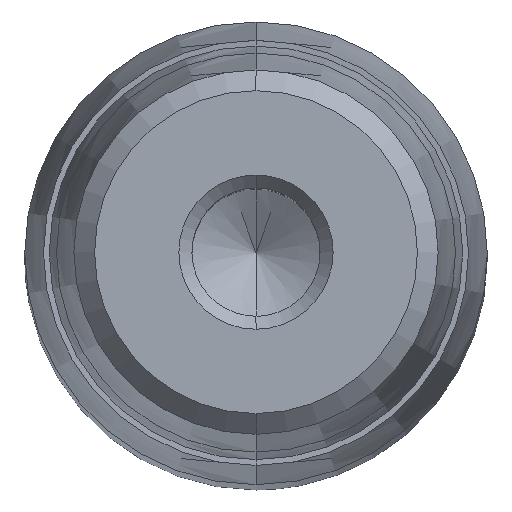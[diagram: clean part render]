
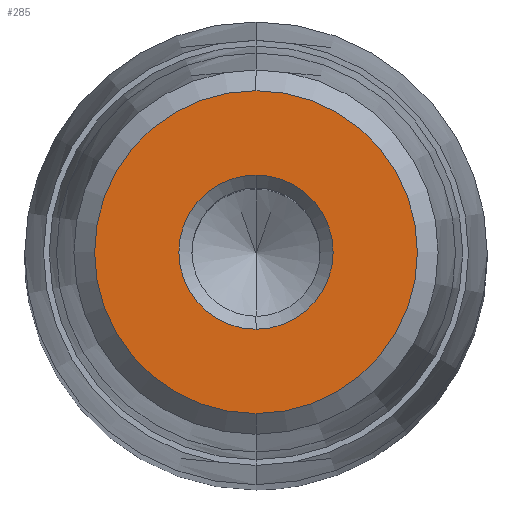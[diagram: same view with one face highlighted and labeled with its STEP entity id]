
A CAD part, top view. The second image highlights one B-rep face of the part: STEP entity #285.
In plain terms, the highlighted planar face has unit normal (0, 0, 1).
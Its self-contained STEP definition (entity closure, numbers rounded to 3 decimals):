
#164=CARTESIAN_POINT('Axis2P3D Location',(0.,0.,35.)) ;
#168=CARTESIAN_POINT('Vertex',(4.,0.,35.)) ;
#170=CARTESIAN_POINT('Vertex',(0.,-4.,35.)) ;
#173=CARTESIAN_POINT('Axis2P3D Location',(0.,0.,35.)) ;
#177=CARTESIAN_POINT('Vertex',(0.,4.,35.)) ;
#228=CARTESIAN_POINT('Axis2P3D Location',(0.,4.,35.)) ;
#233=CARTESIAN_POINT('Axis2P3D Location',(0.,0.,35.)) ;
#237=CARTESIAN_POINT('Vertex',(0.,8.375,35.)) ;
#239=CARTESIAN_POINT('Vertex',(8.375,0.,35.)) ;
#242=CARTESIAN_POINT('Axis2P3D Location',(0.,0.,35.)) ;
#246=CARTESIAN_POINT('Vertex',(-8.375,0.,35.)) ;
#249=CARTESIAN_POINT('Axis2P3D Location',(0.,0.,35.)) ;
#253=CARTESIAN_POINT('Vertex',(0.,-8.375,35.)) ;
#256=CARTESIAN_POINT('Axis2P3D Location',(0.,0.,35.)) ;
#267=CARTESIAN_POINT('Axis2P3D Location',(0.,0.,35.)) ;
#271=CARTESIAN_POINT('Vertex',(-4.,0.,35.)) ;
#274=CARTESIAN_POINT('Axis2P3D Location',(0.,0.,35.)) ;
#165=DIRECTION('Axis2P3D Direction',(-0.,0.,1.)) ;
#174=DIRECTION('Axis2P3D Direction',(-0.,0.,1.)) ;
#229=DIRECTION('Axis2P3D Direction',(0.,0.,-1.)) ;
#230=DIRECTION('Axis2P3D XDirection',(0.,1.,0.)) ;
#234=DIRECTION('Axis2P3D Direction',(0.,0.,-1.)) ;
#243=DIRECTION('Axis2P3D Direction',(0.,0.,-1.)) ;
#250=DIRECTION('Axis2P3D Direction',(0.,0.,-1.)) ;
#257=DIRECTION('Axis2P3D Direction',(0.,0.,-1.)) ;
#268=DIRECTION('Axis2P3D Direction',(0.,0.,-1.)) ;
#275=DIRECTION('Axis2P3D Direction',(0.,0.,-1.)) ;
#166=AXIS2_PLACEMENT_3D('Circle Axis2P3D',#164,#165,$) ;
#175=AXIS2_PLACEMENT_3D('Circle Axis2P3D',#173,#174,$) ;
#231=AXIS2_PLACEMENT_3D('Plane Axis2P3D',#228,#229,#230) ;
#235=AXIS2_PLACEMENT_3D('Circle Axis2P3D',#233,#234,$) ;
#244=AXIS2_PLACEMENT_3D('Circle Axis2P3D',#242,#243,$) ;
#251=AXIS2_PLACEMENT_3D('Circle Axis2P3D',#249,#250,$) ;
#258=AXIS2_PLACEMENT_3D('Circle Axis2P3D',#256,#257,$) ;
#269=AXIS2_PLACEMENT_3D('Circle Axis2P3D',#267,#268,$) ;
#276=AXIS2_PLACEMENT_3D('Circle Axis2P3D',#274,#275,$) ;
#262=ORIENTED_EDGE('',*,*,#241,.F.) ;
#263=ORIENTED_EDGE('',*,*,#248,.F.) ;
#264=ORIENTED_EDGE('',*,*,#255,.F.) ;
#265=ORIENTED_EDGE('',*,*,#260,.F.) ;
#280=ORIENTED_EDGE('',*,*,#172,.T.) ;
#281=ORIENTED_EDGE('',*,*,#273,.T.) ;
#282=ORIENTED_EDGE('',*,*,#278,.T.) ;
#283=ORIENTED_EDGE('',*,*,#179,.T.) ;
#284=FACE_BOUND('',#279,.T.) ;
#285=ADVANCED_FACE('722-24x180x203',(#266,#284),#232,.F.) ;
#167=CIRCLE('generated circle',#166,4.) ;
#176=CIRCLE('generated circle',#175,4.) ;
#236=CIRCLE('generated circle',#235,8.375) ;
#245=CIRCLE('generated circle',#244,8.375) ;
#252=CIRCLE('generated circle',#251,8.375) ;
#259=CIRCLE('generated circle',#258,8.375) ;
#270=CIRCLE('generated circle',#269,4.) ;
#277=CIRCLE('generated circle',#276,4.) ;
#172=EDGE_CURVE('',#169,#171,#167,.F.) ;
#179=EDGE_CURVE('',#178,#169,#176,.F.) ;
#241=EDGE_CURVE('',#238,#240,#236,.T.) ;
#248=EDGE_CURVE('',#247,#238,#245,.T.) ;
#255=EDGE_CURVE('',#254,#247,#252,.T.) ;
#260=EDGE_CURVE('',#240,#254,#259,.T.) ;
#273=EDGE_CURVE('',#171,#272,#270,.T.) ;
#278=EDGE_CURVE('',#272,#178,#277,.T.) ;
#261=EDGE_LOOP('',(#262,#263,#264,#265)) ;
#279=EDGE_LOOP('',(#280,#281,#282,#283)) ;
#266=FACE_OUTER_BOUND('',#261,.T.) ;
#232=PLANE('Plane',#231) ;
#169=VERTEX_POINT('',#168) ;
#171=VERTEX_POINT('',#170) ;
#178=VERTEX_POINT('',#177) ;
#238=VERTEX_POINT('',#237) ;
#240=VERTEX_POINT('',#239) ;
#247=VERTEX_POINT('',#246) ;
#254=VERTEX_POINT('',#253) ;
#272=VERTEX_POINT('',#271) ;
